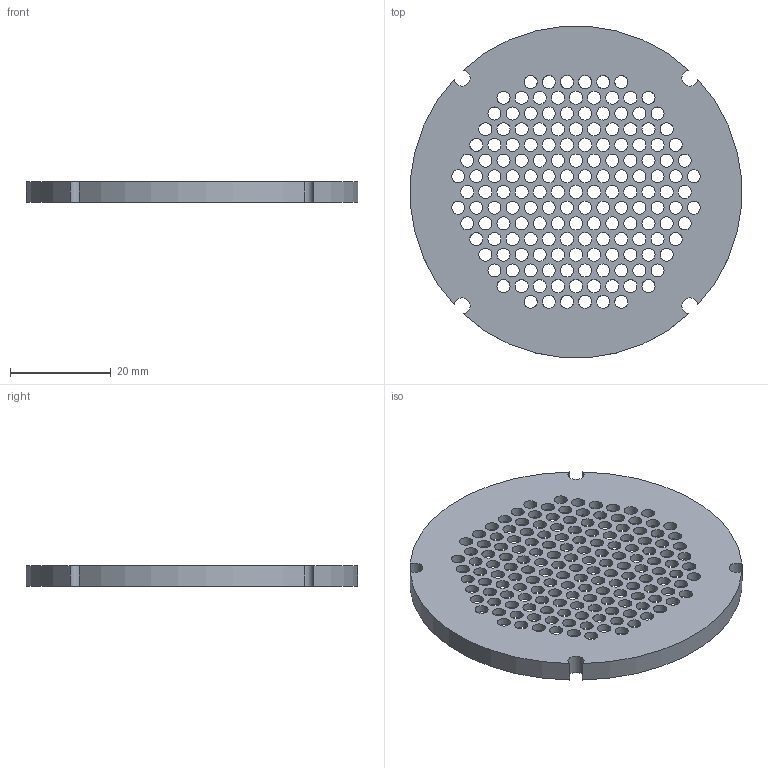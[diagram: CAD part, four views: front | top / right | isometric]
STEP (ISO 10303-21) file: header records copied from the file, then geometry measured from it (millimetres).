
FILE_DESCRIPTION(('Open CASCADE Model'),'2;1');
FILE_NAME('Open CASCADE Shape Model','2026-10-02T14:11:17',('Author'),( 'Open CASCADE'),'Open CASCADE STEP processor 8.0','build123d', 'Unknown');
FILE_SCHEMA(('AUTOMOTIVE_DESIGN { 1 0 10303 214 1 1 1 1 }'));
Length unit declared in the file: millimetre
Products named in the file (1): COMPOUND
Bounding box: 65.77 x 65.77 x 4 mm (x, y, z)
Volume: 7939.4 mm3; surface area: 8433.7 mm2
Topology: 1 solids, 1 shells, 212 faces, 732 edges, 488 vertices
Faces by surface type: cylinder 208, plane 4
Full cylindrical faces by diameter (mm): 2.6 x163, 57 x1
Entity records: 18263 total; most frequent: CARTESIAN_POINT 3099, DIRECTION 2943, ORIENTED_EDGE 1464, PCURVE 1464, DEFINITIONAL_REPRESENTATION 1464, LINE 1060, VECTOR 1060, CIRCLE 969
